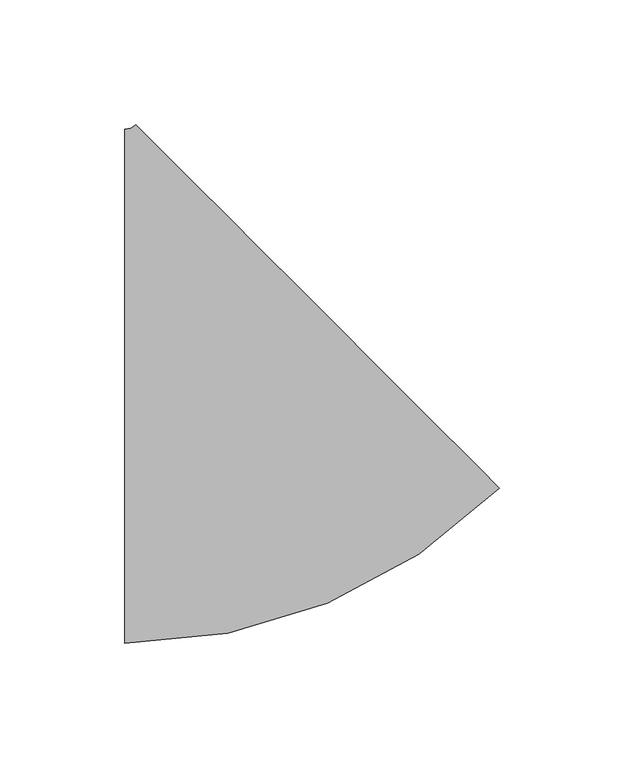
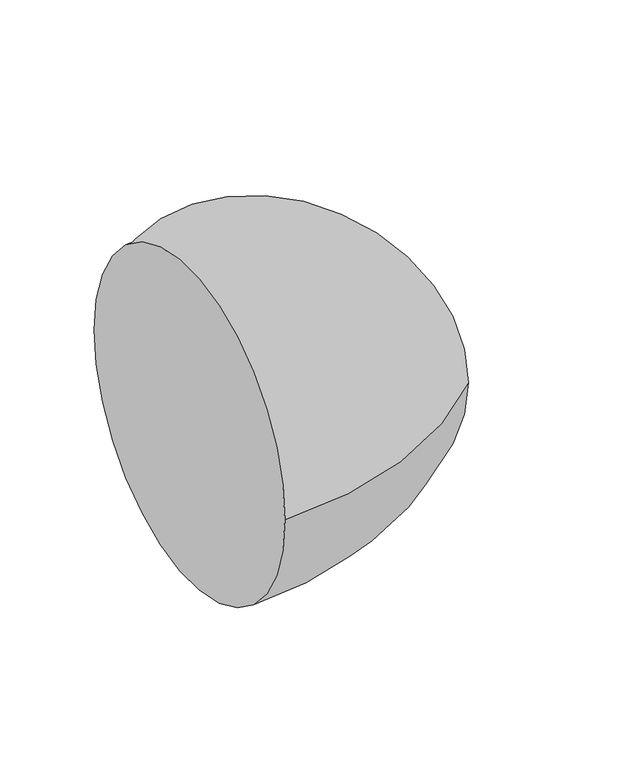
"""IFC4 building model written with IfcOpenShell, lengths in millimetres: pipe fitting geometry, M_Codo - Genérico : Estándar."""

from ifc_helpers import new_model, si_unit, point, frame, origin, place, context, project, spatial, circle_curve, ellipse_curve, trimmed, source, transform, mapped, element, save
from ifc_brep_helpers import plane_surface, revolved_surface, advanced_brep


def pipe_fitting_40862f47(model_context):
    return source(origin(), model_context, "Body", "AdvancedBrep", [
        advanced_brep(
        [(-45.3676523, -103.1875, 0.0), (-45.3676523, 103.1875, 0.0), (105.0416372, -40.8917899, 0.0), (-40.8778227, 105.0470734, 0.0)],
        [
            (0, 1, circle_curve(frame((-45.3676523, 0.0, 0.0), z_axis=(-1.0, 0.0, 0.0), x_axis=(0.0, 1.0, 0.0)), 103.1875)),
            (1, 0, circle_curve(frame((-45.3676523, 0.0, 0.0), z_axis=(-1.0, 0.0, 0.0), x_axis=(0.0, 1.0, 0.0)), 103.1875)),
            (2, 3, circle_curve(frame((32.0819072, 32.0776418, 0.0), z_axis=(0.7071537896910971, 0.7070597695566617, 0.0), x_axis=(-0.7070597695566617, 0.7071537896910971, 0.0)), 103.1875)),
            (3, 2, circle_curve(frame((32.0819072, 32.0776418, 0.0), z_axis=(0.7071537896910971, 0.7070597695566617, 0.0), x_axis=(-0.7070597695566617, 0.7071537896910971, 0.0)), 103.1875)),
            (3, 1, circle_curve(frame((-45.3676523, 109.5375, 0.0), z_axis=(0.0, 0.0, -1.0), x_axis=(0.0, -1.0, 0.0)), 6.35)),
            (0, 2, circle_curve(frame((-45.3676523, 109.5375, 0.0), z_axis=(0.0, 0.0, 1.0), x_axis=(0.0, -1.0, 0.0)), 212.725)),
        ],
        [
            plane_surface(frame((-45.3676523, 0.0, 0.0), z_axis=(-1.0, 0.0, 0.0), x_axis=(0.0, 0.0, 1.0))),
            plane_surface(frame((32.0819072, 32.0776418, 0.0), z_axis=(0.7071537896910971, 0.7070597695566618, 0.0), x_axis=(0.0, 0.0, 1.0))),
            revolved_surface(trimmed(ellipse_curve(frame((-45.3676523, 0.0, 0.0), z_axis=(-1.0, 0.0, 0.0), x_axis=(0.0, 1.0, 0.0)), 103.1875, 103.1875), [point((-45.3676523, -103.1875, 0.0))], [point((-45.3676523, 103.1875, 0.0))], True, "CARTESIAN"), (-45.3676523, 109.5375, 0.0), (0.0, 0.0, 1.0)),
            revolved_surface(trimmed(ellipse_curve(frame((-45.3676523, 0.0, 0.0), z_axis=(-1.0, 0.0, 0.0), x_axis=(0.0, 1.0, 0.0)), 103.1875, 103.1875), [point((-45.3676523, 103.1875, 0.0))], [point((-45.3676523, -103.1875, 0.0))], True, "CARTESIAN"), (-45.3676523, 109.5375, 0.0), (0.0, 0.0, 1.0)),
        ],
        [
            (0, [[1, 2]]),
            (1, [[3, 4]]),
            (2, [[5, -1, 6, -4]]),
            (3, [[-6, -2, -5, -3]]),
        ],
    ),
    ])


if __name__ == "__main__":
    model = new_model("IFC4")
    model_context = context("Model", 3, world=origin())
    ifc_project = project(units=[si_unit("LENGTHUNIT", "METRE", prefix="MILLI")], contexts=[model_context])
    site = spatial("IfcSite", under=ifc_project)
    building = spatial("IfcBuilding", under=site)
    placement = place(None, origin())
    pipe_fitting_shape = pipe_fitting_40862f47(model_context)
    element("IfcPipeFitting", 1, ObjectType="M_Codo - Genérico : Estándar", at=placement, inside=building, context=model_context, shape_type="MappedRepresentation", body=[
        mapped(pipe_fitting_shape, transform((0.0, 0.0, 0.0), x_axis=(1.0, 0.0, 0.0), y_axis=(0.0, 1.0, 0.0), z_axis=(0.0, 0.0, 1.0))),
    ])
    save(model, "model.ifc")
